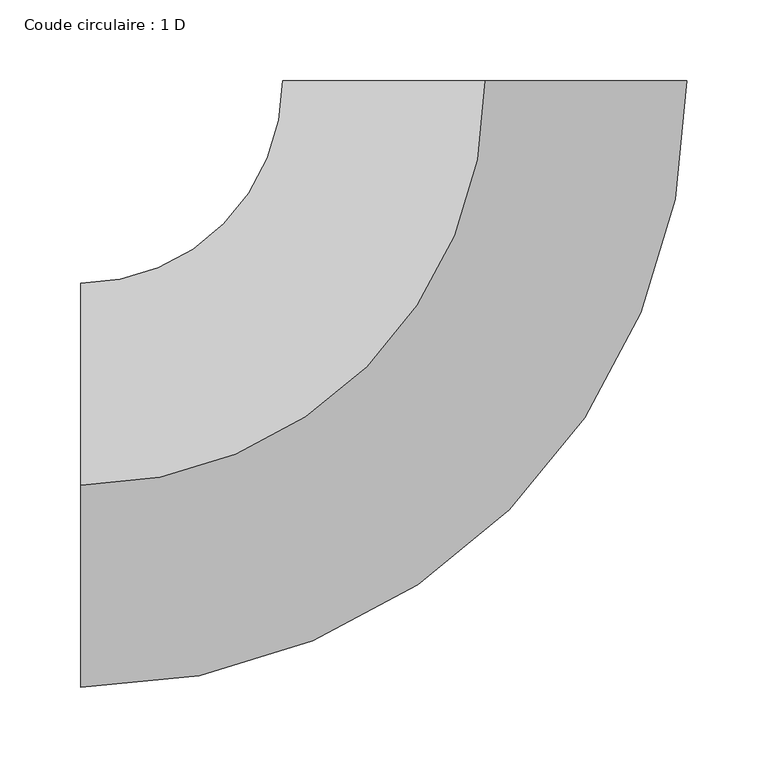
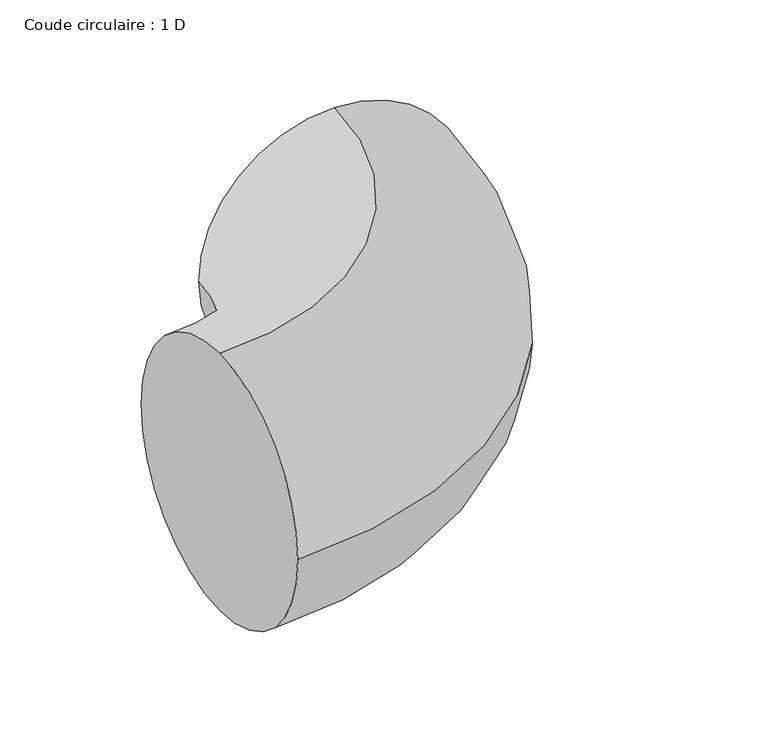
"""IFC4 building model written with IfcOpenShell, lengths in millimetres: duct fitting geometry, Coude circulaire : 1 D."""

import ifcopenshell
import ifcopenshell.guid

model = None  # the IFC model being written
_history = None  # IfcOwnerHistory: only IFC2X3 demands one
_inside = {}  # id of a spatial element -> (the spatial element, [elements in it])
_under = {}  # id of a project, library or spatial element -> (it, [spatial elements below it])
_declared = {}  # id of a project -> (the project, [libraries it declares])
_typed = {}  # id of a type object -> (the type object, [elements of that type])
_made_of = {}  # id of a material, layer set ... -> (it, [elements and type objects made of it])


def new_model(schema):
    """Start an empty IFC model of exactly this schema.

    Asked for "IFC4X3", IfcOpenShell would pick the latest addendum, in which some entities
    have other attributes; the version numbers below select the first issue.
    IFC2X3 requires an IfcOwnerHistory on every rooted entity: one is made here for all.
    """
    global model, _history
    if schema == "IFC4X3":
        model = ifcopenshell.file(schema_version=(4, 3, 0, 0))
    else:
        model = ifcopenshell.file(schema=schema)
    _inside.clear()
    _under.clear()
    _declared.clear()
    _typed.clear()
    _made_of.clear()
    _history = None
    if model.schema == "IFC2X3":
        org = make("IfcOrganization", Name="unknown")
        user = make(
            "IfcPersonAndOrganization",
            ThePerson=make("IfcPerson", FamilyName="unknown"),
            TheOrganization=org,
        )
        app = make(
            "IfcApplication",
            ApplicationDeveloper=org,
            Version="unknown",
            ApplicationFullName="unknown",
            ApplicationIdentifier="unknown",
        )
        _history = make(
            "IfcOwnerHistory",
            OwningUser=user,
            OwningApplication=app,
            ChangeAction="ADDED",
            CreationDate=0,
        )
    return model


def make(cls, **values):
    """One entity of the class cls with the attributes given. An attribute that is None is left unset."""
    return model.create_entity(
        cls, **{name: value for name, value in values.items() if value is not None}
    )


def rooted(cls, **values):
    """An entity with a GlobalId (a new one), such as an element, a storey or a relation."""
    return make(cls, GlobalId=ifcopenshell.guid.new(), OwnerHistory=_history, **values)


def si_unit(unit_type, name, prefix=None):
    """IfcSIUnit, for example si_unit("LENGTHUNIT", "METRE", prefix="MILLI")."""
    return make("IfcSIUnit", UnitType=unit_type, Prefix=prefix, Name=name)


def assignment(units):
    """IfcUnitAssignment: the units of a project."""
    return None if units is None else make("IfcUnitAssignment", Units=units)


def point(xyz):
    """IfcCartesianPoint."""
    return None if xyz is None else make("IfcCartesianPoint", Coordinates=xyz)


def direction(xyz):
    """IfcDirection."""
    return None if xyz is None else make("IfcDirection", DirectionRatios=xyz)


def frame(location, z_axis=None, x_axis=None):
    """IfcAxis2Placement3D, a coordinate frame: its origin and axes. An axis left out is left unset."""
    return make(
        "IfcAxis2Placement3D",
        Location=point(location),
        Axis=direction(z_axis),
        RefDirection=direction(x_axis),
    )


def origin():
    """The frame at (0, 0, 0) with its axes left unset."""
    return frame((0.0, 0.0, 0.0))


def place(relative_to, where):
    """IfcLocalPlacement: puts the frame where relative to a parent placement (None: the world)."""
    return make(
        "IfcLocalPlacement", PlacementRelTo=relative_to, RelativePlacement=where
    )


def context(
    kind, dimensions, precision=None, world=None, true_north=None, identifier=None
):
    """IfcGeometricRepresentationContext, for example the 3D "Model" context."""
    return make(
        "IfcGeometricRepresentationContext",
        ContextIdentifier=identifier,
        ContextType=kind,
        CoordinateSpaceDimension=dimensions,
        Precision=precision,
        WorldCoordinateSystem=world,
        TrueNorth=true_north,
    )


def project(units=None, contexts=None):
    """IfcProject with its units and contexts."""
    return rooted(
        "IfcProject",
        Name="project",
        RepresentationContexts=contexts,
        UnitsInContext=assignment(units),
    )


def spatial(cls, under=None, at=None, **own):
    """A site, building, storey or space (cls), placed at a placement, below another one or the project."""
    s = rooted(cls, ObjectPlacement=at, **own)
    if under is not None:
        _under.setdefault(under.id(), (under, []))[1].append(s)
    return s


def circle_curve(where, radius):
    """IfcCircle in the frame where."""
    return make("IfcCircle", Position=where, Radius=radius)


def ellipse_curve(where, semi_axis1, semi_axis2):
    """IfcEllipse in the frame where."""
    return make(
        "IfcEllipse", Position=where, SemiAxis1=semi_axis1, SemiAxis2=semi_axis2
    )


def trimmed(basis, trim1, trim2, sense, master):
    """IfcTrimmedCurve: the piece of a basis curve between two trims."""
    return make(
        "IfcTrimmedCurve",
        BasisCurve=basis,
        Trim1=trim1,
        Trim2=trim2,
        SenseAgreement=sense,
        MasterRepresentation=master,
    )


def shape(context_of_items, identifier, shape_type, items):
    """IfcShapeRepresentation: the items that make up one representation, for example the "Body"."""
    return make(
        "IfcShapeRepresentation",
        ContextOfItems=context_of_items,
        RepresentationIdentifier=identifier,
        RepresentationType=shape_type,
        Items=items,
    )


def source(mapping_origin, context_of_items, identifier, shape_type, items):
    """IfcRepresentationMap: a shape defined once, which mapped items show again and again."""
    return make(
        "IfcRepresentationMap",
        MappingOrigin=mapping_origin,
        MappedRepresentation=shape(context_of_items, identifier, shape_type, items),
    )


def transform(
    local_origin,
    x_axis=None,
    y_axis=None,
    z_axis=None,
    scale=None,
    scale2=None,
    scale3=None,
    uniform=True,
):
    """IfcCartesianTransformationOperator3D, or its non-uniform kind. x_axis, y_axis, z_axis: its Axis1, 2, 3."""
    if uniform:
        return make(
            "IfcCartesianTransformationOperator3D",
            Axis1=direction(x_axis),
            Axis2=direction(y_axis),
            LocalOrigin=point(local_origin),
            Scale=scale,
            Axis3=direction(z_axis),
        )
    return make(
        "IfcCartesianTransformationOperator3DnonUniform",
        Axis1=direction(x_axis),
        Axis2=direction(y_axis),
        LocalOrigin=point(local_origin),
        Scale=scale,
        Axis3=direction(z_axis),
        Scale2=scale2,
        Scale3=scale3,
    )


def mapped(mapping_source, mapping_target):
    """IfcMappedItem: shows the shape of a source again, moved by a transform."""
    return make(
        "IfcMappedItem", MappingSource=mapping_source, MappingTarget=mapping_target
    )


def made_of(thing, what):
    """Note that an element or type object is made of a material, layer set ...; save() writes the relation."""
    if what is not None:
        _made_of.setdefault(what.id(), (what, []))[1].append(thing)
    return thing


def element(
    cls,
    number,
    at=None,
    inside=None,
    cuts=None,
    type_object=None,
    material=None,
    context=None,
    identifier="Body",
    shape_type=None,
    held_by="IfcProductDefinitionShape",
    body=None,
    shapes=None,
    **own,
):
    """One element of the class cls, such as IfcWall. Its Tag is "e" and its number.

    at: its placement. inside: the storey or other place that contains it. cuts: it is an
    opening in that element (IfcRelVoidsElement). A single representation is given by context,
    identifier, shape_type and body (its items); several are given by shapes. held_by: the class
    of the entity that holds the representations. save() writes the other relations.
    """
    e = rooted(cls, Tag="e%d" % number, ObjectPlacement=at, **own)
    if body is not None:
        shapes = [shape(context, identifier, shape_type, body)]
    if shapes is not None:
        e.Representation = make(held_by, Representations=shapes)
    if inside is not None:
        _inside.setdefault(inside.id(), (inside, []))[1].append(e)
    if cuts is not None:
        rooted(
            "IfcRelVoidsElement", RelatingBuildingElement=cuts, RelatedOpeningElement=e
        )
    if type_object is not None:
        _typed.setdefault(type_object.id(), (type_object, []))[1].append(e)
    return made_of(e, material)


def aggregate(whole, parts):
    """IfcRelAggregates: a whole, such as a stair, and the parts it consists of."""
    return rooted("IfcRelAggregates", RelatingObject=whole, RelatedObjects=parts)


def save(model, path):
    """Write the relations noted so far, then the file.

    IfcRelAggregates (storeys below a building ...), IfcRelContainedInSpatialStructure (elements
    in a storey), IfcRelDefinesByType, IfcRelAssociatesMaterial and IfcRelDeclares: one each for
    every whole, place, type object, material and project.
    """
    for whole, parts in _under.values():
        aggregate(whole, parts)
    for where, things in _inside.values():
        rooted(
            "IfcRelContainedInSpatialStructure",
            RelatedElements=things,
            RelatingStructure=where,
        )
    for kind, things in _typed.values():
        rooted("IfcRelDefinesByType", RelatedObjects=things, RelatingType=kind)
    for what, things in _made_of.values():
        rooted("IfcRelAssociatesMaterial", RelatedObjects=things, RelatingMaterial=what)
    for by, libraries in _declared.values():
        rooted("IfcRelDeclares", RelatingContext=by, RelatedDefinitions=libraries)
    model.write(path)


def plane_surface(at):
    """IfcPlane: the flat surface through the origin of the frame at, square to its z axis."""
    return make("IfcPlane", Position=at)


def revolved_surface(curve, axis_point, axis_direction):
    """IfcSurfaceOfRevolution: the curve turned about the line through axis_point along axis_direction."""
    return make(
        "IfcSurfaceOfRevolution",
        SweptCurve=make("IfcArbitraryOpenProfileDef", ProfileType="CURVE", Curve=curve),
        AxisPosition=make("IfcAxis1Placement", Location=point(axis_point), Axis=direction(axis_direction)),
    )


def advanced_brep(points, edges, surfaces, faces):
    """IfcAdvancedBrep: a solid bounded by faces that lie on surfaces and meet in shared edges.

    An edge is (start, end): straight between two places in points (the first is 0);
    or (start, end, curve); or (start, end, curve, False) where it runs against its curve.
    A face is (place in surfaces, loops), or (place, loops, False) where it looks against
    its surface's normal. A loop lists edges by number (the first is 1), with a minus sign
    where the edge is run from its end to its start. The first loop is the outer one.
    """
    corners = [point(p) for p in points]
    vertices = [make("IfcVertexPoint", VertexGeometry=c) for c in corners]
    made = []
    for start, end, *more in edges:
        made.append(
            make(
                "IfcEdgeCurve",
                EdgeStart=vertices[start],
                EdgeEnd=vertices[end],
                EdgeGeometry=more[0] if more else make("IfcPolyline", Points=[corners[start], corners[end]]),
                SameSense=more[1] if len(more) > 1 else True,
            )
        )
    hull = []
    for where, loops, *sense in faces:
        bounds = []
        for j, loop in enumerate(loops):
            ring = [make("IfcOrientedEdge", EdgeElement=made[abs(k) - 1], Orientation=k > 0) for k in loop]
            bounds.append(
                make(
                    "IfcFaceOuterBound" if j == 0 else "IfcFaceBound",
                    Bound=make("IfcEdgeLoop", EdgeList=ring),
                    Orientation=True,
                )
            )
        hull.append(make("IfcAdvancedFace", Bounds=bounds, FaceSurface=surfaces[where], SameSense=sense[0] if sense else True))
    return make("IfcAdvancedBrep", Outer=make("IfcClosedShell", CfsFaces=hull))


def coude_circulaire_1_d_81cd51c8(model_context):
    return source(origin(), model_context, "Body", "AdvancedBrep", [
        advanced_brep(
        [(-250.0917015, 0.0, 125.0), (-250.0917015, 125.0, 0.0), (-250.0917015, 0.0, -125.0), (-250.0917015, -125.0, 0.0), (-0.0917183, 250.0916846, 125.0), (124.9082733, 250.137527, 0.0), (-0.0917183, 250.0916846, -125.0), (-125.0917099, 250.0458423, 0.0)],
        [
            (0, 1, circle_curve(frame((-250.0917015, 0.0, 0.0), z_axis=(-1.0, 0.0, 0.0), x_axis=(0.0, 1.0, 0.0)), 125.0)),
            (1, 2, circle_curve(frame((-250.0917015, 0.0, 0.0), z_axis=(-1.0, 0.0, 0.0), x_axis=(0.0, 1.0, 0.0)), 125.0)),
            (2, 3, circle_curve(frame((-250.0917015, 0.0, 0.0), z_axis=(-1.0, 0.0, 0.0), x_axis=(0.0, 1.0, 0.0)), 125.0)),
            (3, 0, circle_curve(frame((-250.0917015, 0.0, 0.0), z_axis=(-1.0, 0.0, 0.0), x_axis=(0.0, 1.0, 0.0)), 125.0)),
            (4, 5, circle_curve(frame((-0.0917183, 250.0916846, 0.0), z_axis=(-0.0003667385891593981, 0.9999999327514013, 0.0), x_axis=(-0.9999999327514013, -0.0003667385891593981, 0.0)), 125.0)),
            (5, 6, circle_curve(frame((-0.0917183, 250.0916846, 0.0), z_axis=(-0.0003667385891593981, 0.9999999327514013, 0.0), x_axis=(-0.9999999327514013, -0.0003667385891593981, 0.0)), 125.0)),
            (6, 7, circle_curve(frame((-0.0917183, 250.0916846, 0.0), z_axis=(-0.0003667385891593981, 0.9999999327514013, 0.0), x_axis=(-0.9999999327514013, -0.0003667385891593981, 0.0)), 125.0)),
            (7, 4, circle_curve(frame((-0.0917183, 250.0916846, 0.0), z_axis=(-0.0003667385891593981, 0.9999999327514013, 0.0), x_axis=(-0.9999999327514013, -0.0003667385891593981, 0.0)), 125.0)),
            (7, 1, circle_curve(frame((-250.0917015, 250.0, 0.0), z_axis=(0.0, 0.0, -1.0), x_axis=(0.0, -1.0, 0.0)), 125.0)),
            (0, 4, circle_curve(frame((-250.0917015, 250.0, 125.0), z_axis=(0.0, 0.0, 1.0), x_axis=(0.0, -1.0, 0.0)), 250.0)),
            (6, 2, circle_curve(frame((-250.0917015, 250.0, -125.0), z_axis=(0.0, 0.0, -1.0), x_axis=(0.0, -1.0, 0.0)), 250.0)),
            (5, 3, circle_curve(frame((-250.0917015, 250.0, 0.0), z_axis=(0.0, 0.0, -1.0), x_axis=(0.0, -1.0, 0.0)), 375.0)),
        ],
        [
            plane_surface(frame((-250.0917015, 0.0, 0.0), z_axis=(-1.0, 0.0, 0.0), x_axis=(0.0, 0.0, 1.0))),
            plane_surface(frame((-0.0917183, 250.0916846, 0.0), z_axis=(-0.00036673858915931, 0.9999999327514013, 0.0), x_axis=(0.0, 0.0, 1.0))),
            revolved_surface(trimmed(ellipse_curve(frame((-250.0917015, 0.0, 0.0), z_axis=(-1.0, 0.0, 0.0), x_axis=(0.0, 1.0, 0.0)), 125.0, 125.0), [point((-250.0917015, 0.0, 125.0))], [point((-250.0917015, 125.0, 0.0))], True, "CARTESIAN"), (-250.0917015, 250.0, 0.0), (0.0, 0.0, 1.0)),
            revolved_surface(trimmed(ellipse_curve(frame((-250.0917015, 0.0, 0.0), z_axis=(-1.0, 0.0, 0.0), x_axis=(0.0, 1.0, 0.0)), 125.0, 125.0), [point((-250.0917015, 125.0, 0.0))], [point((-250.0917015, 0.0, -125.0))], True, "CARTESIAN"), (-250.0917015, 250.0, 0.0), (0.0, 0.0, 1.0)),
            revolved_surface(trimmed(ellipse_curve(frame((-250.0917015, 0.0, 0.0), z_axis=(-1.0, 0.0, 0.0), x_axis=(0.0, 1.0, 0.0)), 125.0, 125.0), [point((-250.0917015, 0.0, -125.0))], [point((-250.0917015, -125.0, 0.0))], True, "CARTESIAN"), (-250.0917015, 250.0, 0.0), (0.0, 0.0, 1.0)),
            revolved_surface(trimmed(ellipse_curve(frame((-250.0917015, 0.0, 0.0), z_axis=(-1.0, 0.0, 0.0), x_axis=(0.0, 1.0, 0.0)), 125.0, 125.0), [point((-250.0917015, -125.0, 0.0))], [point((-250.0917015, 0.0, 125.0))], True, "CARTESIAN"), (-250.0917015, 250.0, 0.0), (0.0, 0.0, 1.0)),
        ],
        [
            (0, [[1, 2, 3, 4]]),
            (1, [[5, 6, 7, 8]]),
            (2, [[9, -1, 10, -8]]),
            (3, [[11, -2, -9, -7]]),
            (4, [[12, -3, -11, -6]]),
            (5, [[-10, -4, -12, -5]]),
        ],
    ),
    ])


if __name__ == "__main__":
    model = new_model("IFC4")
    model_context = context("Model", 3, world=origin())
    ifc_project = project(units=[si_unit("LENGTHUNIT", "METRE", prefix="MILLI")], contexts=[model_context])
    site = spatial("IfcSite", under=ifc_project)
    building = spatial("IfcBuilding", under=site)
    placement = place(None, origin())
    coude_circulaire_1_d_shape = coude_circulaire_1_d_81cd51c8(model_context)
    element("IfcDuctFitting", 1, ObjectType="Coude circulaire : 1 D", at=placement, inside=building, context=model_context, shape_type="MappedRepresentation", body=[
        mapped(coude_circulaire_1_d_shape, transform((0.0, 0.0, 0.0), x_axis=(1.0, 0.0, 0.0), y_axis=(0.0, 1.0, 0.0), z_axis=(0.0, 0.0, 1.0))),
    ])
    save(model, "model.ifc")
